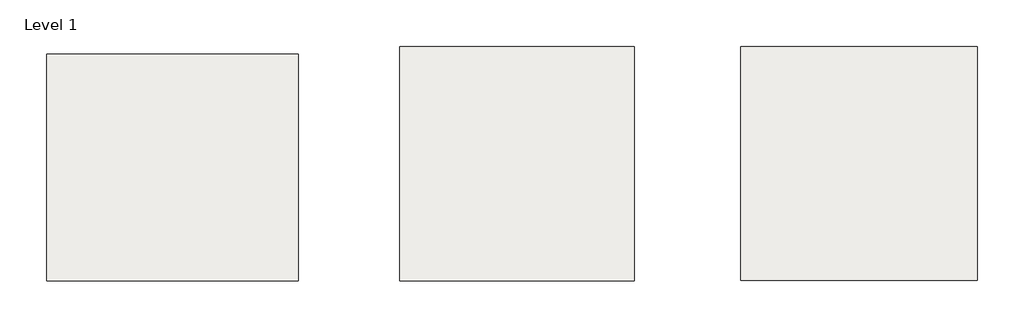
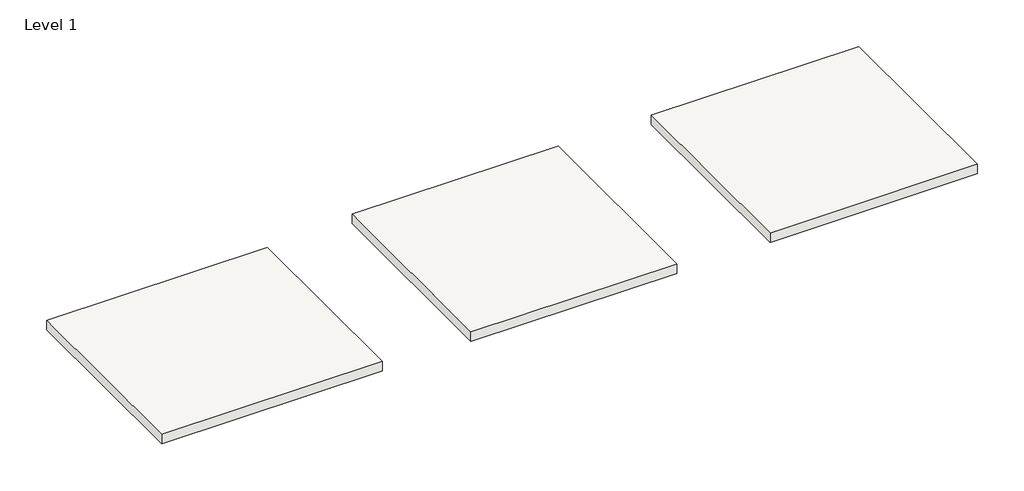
# One storey, incomplete: 3 slabs.
"""IFC4 building model written with IfcOpenShell, lengths in millimetres."""

from ifc_helpers import new_model, si_unit, frame, origin, place, context, project, spatial, polyline, outline, extrude, element, save

model = new_model("IFC4")

# Units and contexts
model_context = context("Model", 3, world=origin())
ifc_project = project(units=[si_unit("LENGTHUNIT", "METRE", prefix="MILLI")], contexts=[model_context])

# Site, building, storey
site = spatial("IfcSite", under=ifc_project)
building = spatial("IfcBuilding", under=site)
storey = spatial("IfcBuildingStorey", under=building, Name="Level 1", Elevation=0.0)

# Slabs
placement = place(None, origin())
element("IfcSlab", 1, ObjectType="_FLOOR 20", at=placement, inside=storey, context=model_context, shape_type="SweptSolid", body=[
    extrude(outline(polyline([(101664.0279356, -64278.9019582), (101664.0279356, -69460.5019582), (96430.9424844, -69460.5019582), (96430.9424844, -64278.9019582), (101664.0279356, -64278.9019582)])), frame((0.0, 0.0, -254.0), z_axis=(0.0, 0.0, 1.0), x_axis=(1.0, 0.0, 0.0)), (0.0, 0.0, 1.0), 254.0),
])
element("IfcSlab", 2, ObjectType="_FLOOR 20", at=placement, inside=storey, context=model_context, shape_type="SweptSolid", body=[
    extrude(outline(polyline([(94079.0645164, -64283.7447143), (94079.0645164, -69465.3447143), (88884.7645164, -69465.3447143), (88884.7645164, -64283.7447143), (94079.0645164, -64283.7447143)])), frame((0.0, 0.0, -254.0), z_axis=(0.0, 0.0, 1.0), x_axis=(1.0, 0.0, 0.0)), (0.0, 0.0, 1.0), 254.0),
])
element("IfcSlab", 3, ObjectType="_FLOOR 20", at=placement, inside=storey, context=model_context, shape_type="SweptSolid", body=[
    extrude(outline(polyline([(86639.4058391, -64444.9621435), (86639.4058391, -69474.1621435), (81076.8058391, -69474.1621435), (81076.8058391, -64444.9621435), (86639.4058391, -64444.9621435)])), frame((0.0, 0.0, -254.0), z_axis=(0.0, 0.0, 1.0), x_axis=(1.0, 0.0, 0.0)), (0.0, 0.0, 1.0), 254.0),
])

save(model, "model.ifc")
